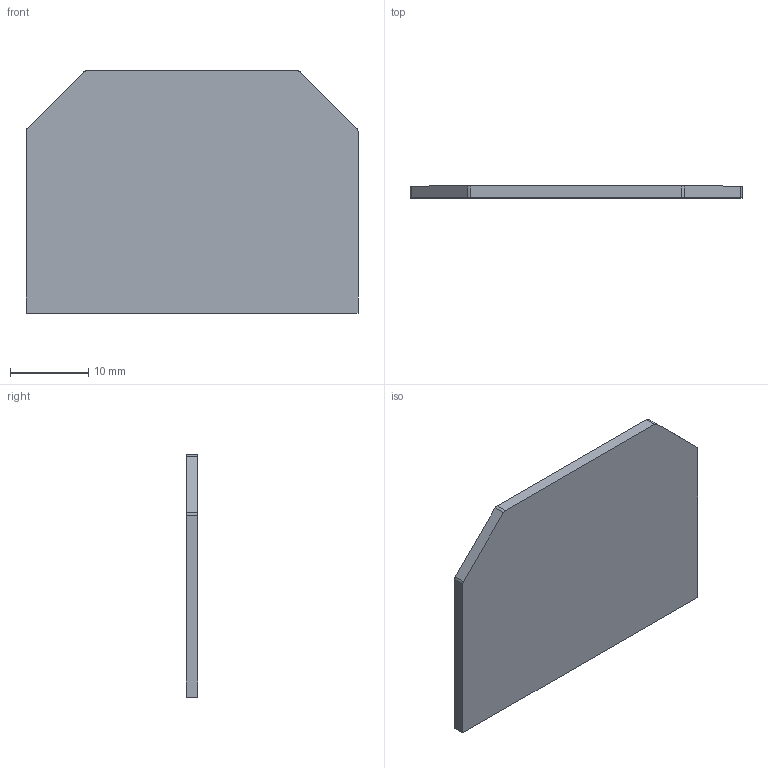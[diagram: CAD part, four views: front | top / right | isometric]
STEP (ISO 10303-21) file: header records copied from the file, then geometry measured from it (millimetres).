
FILE_DESCRIPTION( ( 'Unknown' ), '1' );
FILE_NAME( 'Z:/Product Configurator/3d/stp1/EP6_10U.stp', 'Unknown', ( 'Unknown' ), ( 'Unknown' ), 'PSStep 17.0.49', 'Unknown', ' ' );
FILE_SCHEMA( ( 'AUTOMOTIVE_DESIGN { 1 0 10303 214 1 1 1 1 }' ) );
Length unit declared in the file: millimetre
Products named in the file (1): 1
Bounding box: 42.5 x 1.5 x 31 mm (x, y, z)
Volume: 1891.8 mm3; surface area: 2729.6 mm2
Topology: 1 solids, 1 shells, 12 faces, 30 edges, 20 vertices
Faces by surface type: plane 8, cylinder 4
Entity records: 673 total; most frequent: DIRECTION 64, CARTESIAN_POINT 63, ORIENTED_EDGE 60, PRESENTATION_STYLE_ASSIGNMENT 54, COLOUR_RGB 54, STYLED_ITEM 43, CURVE_STYLE 42, DRAUGHTING_PRE_DEFINED_CURVE_FONT 42
